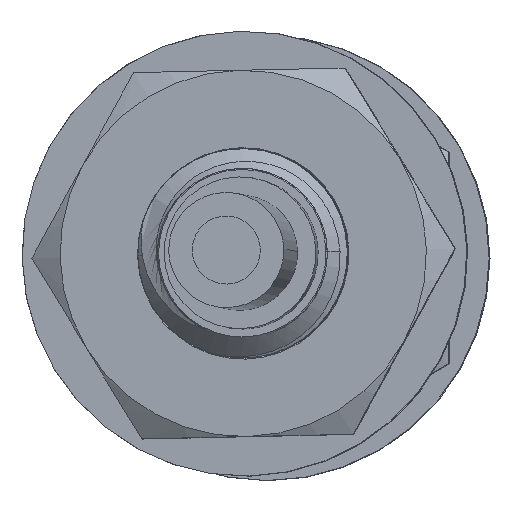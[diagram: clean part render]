
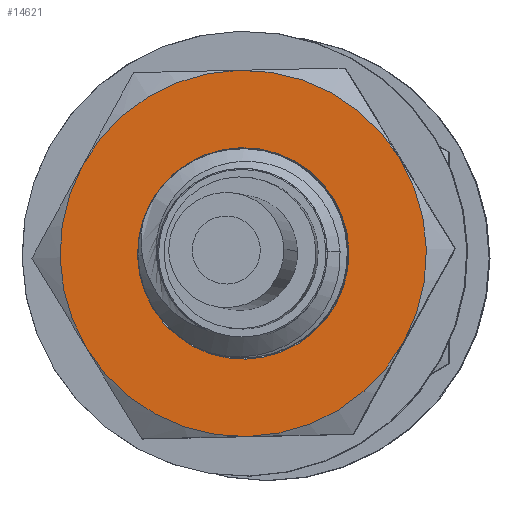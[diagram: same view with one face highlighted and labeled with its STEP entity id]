
A CAD part, top view. The second image highlights one B-rep face of the part: STEP entity #14621.
In plain terms, the highlighted planar face has unit normal (-0.009, 0, 1).
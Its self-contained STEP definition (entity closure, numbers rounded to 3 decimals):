
#60 = DIRECTION ( 'NONE',  ( -0.009, 0., 1. ) ) ;
#170 = CARTESIAN_POINT ( 'NONE',  ( -1.386, 0.519, 105.612 ) ) ;
#683 = DIRECTION ( 'NONE',  ( -0.022, 1., 0. ) ) ;
#817 = AXIS2_PLACEMENT_3D ( 'NONE', #6481, #22670, #22584 ) ;
#872 = VERTEX_POINT ( 'NONE', #12520 ) ;
#1001 = ORIENTED_EDGE ( 'NONE', *, *, #11404, .T. ) ;
#1107 = ORIENTED_EDGE ( 'NONE', *, *, #15961, .T. ) ;
#1766 = PLANE ( 'NONE',  #22651 ) ;
#1835 = DIRECTION ( 'NONE',  ( -0.009, 0., 1. ) ) ;
#1918 = FACE_OUTER_BOUND ( 'NONE', #18889, .T. ) ;
#2042 = DIRECTION ( 'NONE',  ( -0.022, 1., 0. ) ) ;
#2044 = CARTESIAN_POINT ( 'NONE',  ( -1.342, -1.5, 105.612 ) ) ;
#2545 = ORIENTED_EDGE ( 'NONE', *, *, #19717, .T. ) ;
#2742 = EDGE_CURVE ( 'NONE', #17403, #4227, #12006, .T. ) ;
#2900 = AXIS2_PLACEMENT_3D ( 'NONE', #9142, #5336, #3745 ) ;
#3084 = CARTESIAN_POINT ( 'NONE',  ( -1.462, 4.018, 105.611 ) ) ;
#3621 = DIRECTION ( 'NONE',  ( -0.022, 1., 0. ) ) ;
#3745 = DIRECTION ( 'NONE',  ( -0.022, 1., 0. ) ) ;
#4153 = CARTESIAN_POINT ( 'NONE',  ( -4.378, -1.297, 105.586 ) ) ;
#4227 = VERTEX_POINT ( 'NONE', #21661 ) ;
#4255 = CARTESIAN_POINT ( 'NONE',  ( -1.386, 0.519, 105.612 ) ) ;
#4822 = EDGE_CURVE ( 'NONE', #4227, #13484, #7664, .T. ) ;
#4982 = CIRCLE ( 'NONE', #8346, 2.02 ) ;
#5330 = FACE_BOUND ( 'NONE', #18369, .T. ) ;
#5336 = DIRECTION ( 'NONE',  ( 0.009, 0., -1. ) ) ;
#5344 = AXIS2_PLACEMENT_3D ( 'NONE', #6123, #22165, #18830 ) ;
#5563 = DIRECTION ( 'NONE',  ( -0.022, 1., 0. ) ) ;
#5681 = CIRCLE ( 'NONE', #20530, 3.5 ) ;
#6123 = CARTESIAN_POINT ( 'NONE',  ( -1.386, 0.519, 105.612 ) ) ;
#6481 = CARTESIAN_POINT ( 'NONE',  ( -1.386, 0.519, 105.612 ) ) ;
#6890 = CARTESIAN_POINT ( 'NONE',  ( -1.43, 2.539, 105.611 ) ) ;
#7214 = VERTEX_POINT ( 'NONE', #3084 ) ;
#7664 = CIRCLE ( 'NONE', #817, 3.5 ) ;
#8120 = AXIS2_PLACEMENT_3D ( 'NONE', #12714, #1835, #14535 ) ;
#8346 = AXIS2_PLACEMENT_3D ( 'NONE', #20623, #9760, #683 ) ;
#8396 = EDGE_CURVE ( 'NONE', #7214, #23607, #11442, .T. ) ;
#9142 = CARTESIAN_POINT ( 'NONE',  ( -1.386, 0.519, 105.612 ) ) ;
#9760 = DIRECTION ( 'NONE',  ( 0.009, 0., -1. ) ) ;
#10281 = AXIS2_PLACEMENT_3D ( 'NONE', #170, #12898, #2042 ) ;
#10721 = ORIENTED_EDGE ( 'NONE', *, *, #8396, .T. ) ;
#11404 = EDGE_CURVE ( 'NONE', #23607, #17403, #21601, .T. ) ;
#11442 = CIRCLE ( 'NONE', #5344, 3.5 ) ;
#11509 = CIRCLE ( 'NONE', #18828, 3.5 ) ;
#12006 = CIRCLE ( 'NONE', #8120, 3.5 ) ;
#12271 = CARTESIAN_POINT ( 'NONE',  ( -4.454, 2.202, 105.585 ) ) ;
#12492 = ORIENTED_EDGE ( 'NONE', *, *, #2742, .T. ) ;
#12520 = CARTESIAN_POINT ( 'NONE',  ( 1.606, 2.335, 105.638 ) ) ;
#12714 = CARTESIAN_POINT ( 'NONE',  ( -1.386, 0.519, 105.612 ) ) ;
#12898 = DIRECTION ( 'NONE',  ( -0.009, 0., 1. ) ) ;
#13484 = VERTEX_POINT ( 'NONE', #23415 ) ;
#13886 = CIRCLE ( 'NONE', #2900, 2.02 ) ;
#14421 = CARTESIAN_POINT ( 'NONE',  ( -1.386, 0.519, 105.612 ) ) ;
#14464 = CARTESIAN_POINT ( 'NONE',  ( -1.386, 0.519, 105.612 ) ) ;
#14535 = DIRECTION ( 'NONE',  ( -0.022, 1., 0. ) ) ;
#14621 = ADVANCED_FACE ( 'NONE', ( #5330, #1918 ), #1766, .T. ) ;
#15961 = EDGE_CURVE ( 'NONE', #22008, #19187, #4982, .T. ) ;
#16377 = ORIENTED_EDGE ( 'NONE', *, *, #4822, .T. ) ;
#16506 = ORIENTED_EDGE ( 'NONE', *, *, #19014, .T. ) ;
#16722 = EDGE_CURVE ( 'NONE', #872, #7214, #11509, .T. ) ;
#17403 = VERTEX_POINT ( 'NONE', #4153 ) ;
#17897 = DIRECTION ( 'NONE',  ( -0.009, 0., 1. ) ) ;
#18369 = EDGE_LOOP ( 'NONE', ( #1107, #2545 ) ) ;
#18828 = AXIS2_PLACEMENT_3D ( 'NONE', #4255, #18857, #22195 ) ;
#18830 = DIRECTION ( 'NONE',  ( -0.022, 1., 0. ) ) ;
#18857 = DIRECTION ( 'NONE',  ( -0.009, 0., 1. ) ) ;
#18889 = EDGE_LOOP ( 'NONE', ( #22527, #10721, #1001, #12492, #16377, #16506 ) ) ;
#19014 = EDGE_CURVE ( 'NONE', #13484, #872, #5681, .T. ) ;
#19187 = VERTEX_POINT ( 'NONE', #2044 ) ;
#19717 = EDGE_CURVE ( 'NONE', #19187, #22008, #13886, .T. ) ;
#20530 = AXIS2_PLACEMENT_3D ( 'NONE', #14421, #17897, #3621 ) ;
#20623 = CARTESIAN_POINT ( 'NONE',  ( -1.386, 0.519, 105.612 ) ) ;
#21601 = CIRCLE ( 'NONE', #10281, 3.5 ) ;
#21661 = CARTESIAN_POINT ( 'NONE',  ( -1.309, -2.98, 105.612 ) ) ;
#22008 = VERTEX_POINT ( 'NONE', #6890 ) ;
#22165 = DIRECTION ( 'NONE',  ( -0.009, 0., 1. ) ) ;
#22195 = DIRECTION ( 'NONE',  ( -0.022, 1., 0. ) ) ;
#22527 = ORIENTED_EDGE ( 'NONE', *, *, #16722, .T. ) ;
#22584 = DIRECTION ( 'NONE',  ( -0.022, 1., 0. ) ) ;
#22651 = AXIS2_PLACEMENT_3D ( 'NONE', #14464, #60, #5563 ) ;
#22670 = DIRECTION ( 'NONE',  ( -0.009, 0., 1. ) ) ;
#23415 = CARTESIAN_POINT ( 'NONE',  ( 1.683, -1.164, 105.639 ) ) ;
#23607 = VERTEX_POINT ( 'NONE', #12271 ) ;
